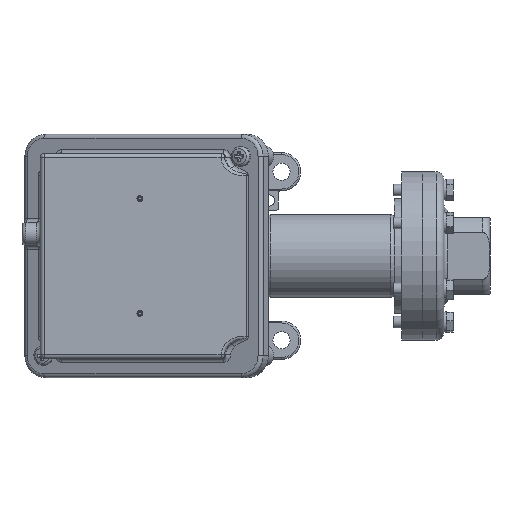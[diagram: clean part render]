
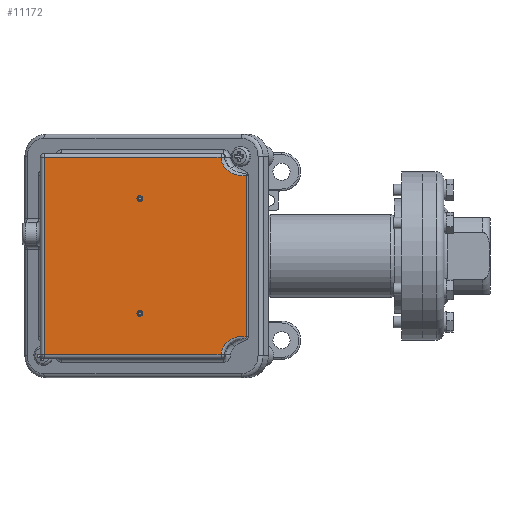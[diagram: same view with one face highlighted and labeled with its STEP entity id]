
A CAD part, left-side view. The second image highlights one B-rep face of the part: STEP entity #11172.
In plain terms, the highlighted planar face has unit normal (-1, 0.005, 0).
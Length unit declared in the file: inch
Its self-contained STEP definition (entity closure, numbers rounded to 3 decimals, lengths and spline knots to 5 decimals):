
#31 = VERTEX_POINT ( 'NONE', #9384 ) ;
#180 = CARTESIAN_POINT ( 'NONE',  ( -2.32159, 0.41746, 1.27099 ) ) ;
#389 = VERTEX_POINT ( 'NONE', #2020 ) ;
#428 = DIRECTION ( 'NONE',  ( -1., 0.005, 0. ) ) ;
#474 = CARTESIAN_POINT ( 'NONE',  ( -2.32057, 0.61286, -1.61 ) ) ;
#889 = ORIENTED_EDGE ( 'NONE', *, *, #995, .T. ) ;
#899 = DIRECTION ( 'NONE',  ( 0.005, 1., 0. ) ) ;
#995 = EDGE_CURVE ( 'NONE', #9604, #389, #10844, .T. ) ;
#1071 = VERTEX_POINT ( 'NONE', #2643 ) ;
#1135 = VERTEX_POINT ( 'NONE', #8046 ) ;
#1255 = CIRCLE ( 'NONE', #2139, 0.0465 ) ;
#1256 = VERTEX_POINT ( 'NONE', #3880 ) ;
#1326 = ORIENTED_EDGE ( 'NONE', *, *, #10469, .T. ) ;
#1561 = ORIENTED_EDGE ( 'NONE', *, *, #7136, .F. ) ;
#1594 = CARTESIAN_POINT ( 'NONE',  ( -2.3055, 3.50088, 1.61 ) ) ;
#1623 = CARTESIAN_POINT ( 'NONE',  ( -2.32282, 0.18143, 1.6725 ) ) ;
#2020 = CARTESIAN_POINT ( 'NONE',  ( -2.3055, 3.50088, -1.61 ) ) ;
#2139 = AXIS2_PLACEMENT_3D ( 'NONE', #8567, #8517, #11107 ) ;
#2151 = CARTESIAN_POINT ( 'NONE',  ( -2.32159, 0.41746, -1.27099 ) ) ;
#2421 = EDGE_CURVE ( 'NONE', #1135, #9604, #10729, .T. ) ;
#2438 = VECTOR ( 'NONE', #7442, 39.37008 ) ;
#2643 = CARTESIAN_POINT ( 'NONE',  ( -2.31389, 1.8919, -0.938 ) ) ;
#2644 = VECTOR ( 'NONE', #9870, 39.37008 ) ;
#2666 = ORIENTED_EDGE ( 'NONE', *, *, #2421, .T. ) ;
#2734 = CARTESIAN_POINT ( 'NONE',  ( -2.32276, 0.19397, 1.6725 ) ) ;
#2842 = AXIS2_PLACEMENT_3D ( 'NONE', #6318, #428, #5669 ) ;
#2945 = CARTESIAN_POINT ( 'NONE',  ( -2.32081, 0.56672, -1.61 ) ) ;
#2964 = EDGE_LOOP ( 'NONE', ( #3896 ) ) ;
#3735 = CARTESIAN_POINT ( 'NONE',  ( -2.32282, 0.18143, 1.61 ) ) ;
#3749 = CIRCLE ( 'NONE', #2842, 0.0465 ) ;
#3880 = CARTESIAN_POINT ( 'NONE',  ( -2.32276, 0.19397, 1.32146 ) ) ;
#3896 = ORIENTED_EDGE ( 'NONE', *, *, #8918, .F. ) ;
#4114 = FACE_BOUND ( 'NONE', #2964, .T. ) ;
#4582 = DIRECTION ( 'NONE',  ( -0.005, -1., 0. ) ) ;
#4967 = CARTESIAN_POINT ( 'NONE',  ( -2.32276, 0.19397, -1.32146 ) ) ;
#5188 = ORIENTED_EDGE ( 'NONE', *, *, #6259, .T. ) ;
#5606 = CARTESIAN_POINT ( 'NONE',  ( -2.32276, 0.19397, -1.32146 ) ) ;
#5669 = DIRECTION ( 'NONE',  ( -0.005, -1., 0. ) ) ;
#5804 = EDGE_LOOP ( 'NONE', ( #1561 ) ) ;
#5917 = FACE_OUTER_BOUND ( 'NONE', #10803, .T. ) ;
#6126 = ORIENTED_EDGE ( 'NONE', *, *, #10874, .T. ) ;
#6150 = DIRECTION ( 'NONE',  ( 1., -0.005, 0. ) ) ;
#6190 = LINE ( 'NONE', #2734, #10868 ) ;
#6259 = EDGE_CURVE ( 'NONE', #389, #31, #9039, .T. ) ;
#6318 = CARTESIAN_POINT ( 'NONE',  ( -2.31365, 1.9384, -0.938 ) ) ;
#6332 = AXIS2_PLACEMENT_3D ( 'NONE', #1623, #6150, #899 ) ;
#6966 = VERTEX_POINT ( 'NONE', #7260 ) ;
#6967 = CARTESIAN_POINT ( 'NONE',  ( -2.32057, 0.61286, 1.61 ) ) ;
#7136 = EDGE_CURVE ( 'NONE', #1071, #1071, #3749, .T. ) ;
#7260 = CARTESIAN_POINT ( 'NONE',  ( -2.31389, 1.8919, 0.937 ) ) ;
#7442 = DIRECTION ( 'NONE',  ( 0., 0., -1. ) ) ;
#7584 = FACE_BOUND ( 'NONE', #5804, .T. ) ;
#7741 = DIRECTION ( 'NONE',  ( 0., 0., 1. ) ) ;
#7848 = VERTEX_POINT ( 'NONE', #4967 ) ;
#8046 = CARTESIAN_POINT ( 'NONE',  ( -2.32057, 0.61286, 1.61 ) ) ;
#8050 = CARTESIAN_POINT ( 'NONE',  ( -2.32063, 0.60182, 1.39798 ) ) ;
#8069 =( BOUNDED_CURVE ( )  B_SPLINE_CURVE ( 3, ( #9750, #180, #8050, #6967 ),
 .UNSPECIFIED., .F., .T. ) 
 B_SPLINE_CURVE_WITH_KNOTS ( ( 4, 4 ),
 ( 1.33072, 3.09357 ),
 .UNSPECIFIED. ) 
 CURVE ( )  GEOMETRIC_REPRESENTATION_ITEM ( )  RATIONAL_B_SPLINE_CURVE ( ( 1., 0.757, 0.757, 1. ) ) 
 REPRESENTATION_ITEM ( '' )  );
#8442 = ORIENTED_EDGE ( 'NONE', *, *, #10577, .T. ) ;
#8517 = DIRECTION ( 'NONE',  ( -1., 0.005, 0. ) ) ;
#8567 = CARTESIAN_POINT ( 'NONE',  ( -2.31365, 1.9384, 0.937 ) ) ;
#8831 = VECTOR ( 'NONE', #4582, 39.37008 ) ;
#8918 = EDGE_CURVE ( 'NONE', #6966, #6966, #1255, .T. ) ;
#9039 = LINE ( 'NONE', #2945, #8831 ) ;
#9384 = CARTESIAN_POINT ( 'NONE',  ( -2.32057, 0.61286, -1.61 ) ) ;
#9411 = PLANE ( 'NONE',  #6332 ) ;
#9604 = VERTEX_POINT ( 'NONE', #1594 ) ;
#9750 = CARTESIAN_POINT ( 'NONE',  ( -2.32276, 0.19397, 1.32146 ) ) ;
#9870 = DIRECTION ( 'NONE',  ( 0.005, 1., 0. ) ) ;
#9942 = CARTESIAN_POINT ( 'NONE',  ( -2.32063, 0.60182, -1.39798 ) ) ;
#9960 =( BOUNDED_CURVE ( )  B_SPLINE_CURVE ( 3, ( #474, #9942, #2151, #5606 ),
 .UNSPECIFIED., .F., .F. ) 
 B_SPLINE_CURVE_WITH_KNOTS ( ( 4, 4 ),
 ( 3.18961, 4.95247 ),
 .UNSPECIFIED. ) 
 CURVE ( )  GEOMETRIC_REPRESENTATION_ITEM ( )  RATIONAL_B_SPLINE_CURVE ( ( 1., 0.757, 0.757, 1. ) ) 
 REPRESENTATION_ITEM ( '' )  );
#10045 = CARTESIAN_POINT ( 'NONE',  ( -2.3055, 3.50088, 1.6725 ) ) ;
#10469 = EDGE_CURVE ( 'NONE', #7848, #1256, #6190, .T. ) ;
#10577 = EDGE_CURVE ( 'NONE', #31, #7848, #9960, .T. ) ;
#10729 = LINE ( 'NONE', #3735, #2644 ) ;
#10803 = EDGE_LOOP ( 'NONE', ( #889, #5188, #8442, #1326, #6126, #2666 ) ) ;
#10844 = LINE ( 'NONE', #10045, #2438 ) ;
#10868 = VECTOR ( 'NONE', #7741, 39.37008 ) ;
#10874 = EDGE_CURVE ( 'NONE', #1256, #1135, #8069, .T. ) ;
#11107 = DIRECTION ( 'NONE',  ( -0.005, -1., 0. ) ) ;
#11172 = ADVANCED_FACE ( 'NONE', ( #4114, #7584, #5917 ), #9411, .F. ) ;
